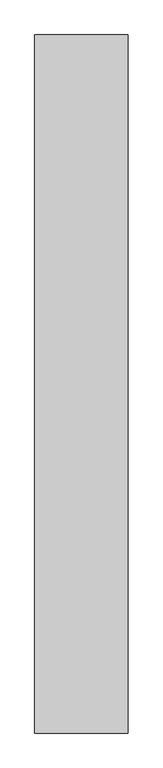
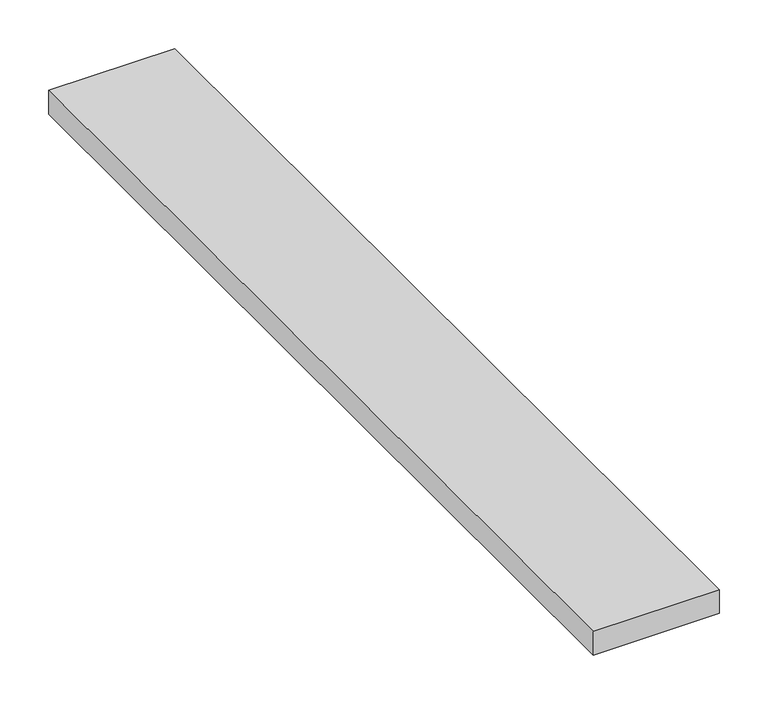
"""IFC4 building model written with IfcOpenShell, lengths in millimetres: proxy geometry, GM_Отделка : Подступенок."""

import ifcopenshell
import ifcopenshell.guid

model = None  # the IFC model being written
_history = None  # IfcOwnerHistory: only IFC2X3 demands one
_inside = {}  # id of a spatial element -> (the spatial element, [elements in it])
_under = {}  # id of a project, library or spatial element -> (it, [spatial elements below it])
_declared = {}  # id of a project -> (the project, [libraries it declares])
_typed = {}  # id of a type object -> (the type object, [elements of that type])
_made_of = {}  # id of a material, layer set ... -> (it, [elements and type objects made of it])


def new_model(schema):
    """Start an empty IFC model of exactly this schema.

    Asked for "IFC4X3", IfcOpenShell would pick the latest addendum, in which some entities
    have other attributes; the version numbers below select the first issue.
    IFC2X3 requires an IfcOwnerHistory on every rooted entity: one is made here for all.
    """
    global model, _history
    if schema == "IFC4X3":
        model = ifcopenshell.file(schema_version=(4, 3, 0, 0))
    else:
        model = ifcopenshell.file(schema=schema)
    _inside.clear()
    _under.clear()
    _declared.clear()
    _typed.clear()
    _made_of.clear()
    _history = None
    if model.schema == "IFC2X3":
        org = make("IfcOrganization", Name="unknown")
        user = make(
            "IfcPersonAndOrganization",
            ThePerson=make("IfcPerson", FamilyName="unknown"),
            TheOrganization=org,
        )
        app = make(
            "IfcApplication",
            ApplicationDeveloper=org,
            Version="unknown",
            ApplicationFullName="unknown",
            ApplicationIdentifier="unknown",
        )
        _history = make(
            "IfcOwnerHistory",
            OwningUser=user,
            OwningApplication=app,
            ChangeAction="ADDED",
            CreationDate=0,
        )
    return model


def make(cls, **values):
    """One entity of the class cls with the attributes given. An attribute that is None is left unset."""
    return model.create_entity(
        cls, **{name: value for name, value in values.items() if value is not None}
    )


def rooted(cls, **values):
    """An entity with a GlobalId (a new one), such as an element, a storey or a relation."""
    return make(cls, GlobalId=ifcopenshell.guid.new(), OwnerHistory=_history, **values)


def si_unit(unit_type, name, prefix=None):
    """IfcSIUnit, for example si_unit("LENGTHUNIT", "METRE", prefix="MILLI")."""
    return make("IfcSIUnit", UnitType=unit_type, Prefix=prefix, Name=name)


def assignment(units):
    """IfcUnitAssignment: the units of a project."""
    return None if units is None else make("IfcUnitAssignment", Units=units)


def point(xyz):
    """IfcCartesianPoint."""
    return None if xyz is None else make("IfcCartesianPoint", Coordinates=xyz)


def direction(xyz):
    """IfcDirection."""
    return None if xyz is None else make("IfcDirection", DirectionRatios=xyz)


def frame(location, z_axis=None, x_axis=None):
    """IfcAxis2Placement3D, a coordinate frame: its origin and axes. An axis left out is left unset."""
    return make(
        "IfcAxis2Placement3D",
        Location=point(location),
        Axis=direction(z_axis),
        RefDirection=direction(x_axis),
    )


def origin():
    """The frame at (0, 0, 0) with its axes left unset."""
    return frame((0.0, 0.0, 0.0))


def origin_with_axes():
    """The frame at (0, 0, 0) with the z axis (0, 0, 1) and the x axis (1, 0, 0) written out."""
    return frame((0.0, 0.0, 0.0), z_axis=(0.0, 0.0, 1.0), x_axis=(1.0, 0.0, 0.0))


def place(relative_to, where):
    """IfcLocalPlacement: puts the frame where relative to a parent placement (None: the world)."""
    return make(
        "IfcLocalPlacement", PlacementRelTo=relative_to, RelativePlacement=where
    )


def context(
    kind, dimensions, precision=None, world=None, true_north=None, identifier=None
):
    """IfcGeometricRepresentationContext, for example the 3D "Model" context."""
    return make(
        "IfcGeometricRepresentationContext",
        ContextIdentifier=identifier,
        ContextType=kind,
        CoordinateSpaceDimension=dimensions,
        Precision=precision,
        WorldCoordinateSystem=world,
        TrueNorth=true_north,
    )


def project(units=None, contexts=None):
    """IfcProject with its units and contexts."""
    return rooted(
        "IfcProject",
        Name="project",
        RepresentationContexts=contexts,
        UnitsInContext=assignment(units),
    )


def spatial(cls, under=None, at=None, **own):
    """A site, building, storey or space (cls), placed at a placement, below another one or the project."""
    s = rooted(cls, ObjectPlacement=at, **own)
    if under is not None:
        _under.setdefault(under.id(), (under, []))[1].append(s)
    return s


def polyline(points):
    """IfcPolyline through the points."""
    return make("IfcPolyline", Points=[point(p) for p in points])


def outline(outer, holes=None, kind="AREA"):
    """IfcArbitraryClosedProfileDef: a profile drawn as a closed curve; with holes, ...WithVoids."""
    if holes is None:
        return make("IfcArbitraryClosedProfileDef", ProfileType=kind, OuterCurve=outer)
    return make(
        "IfcArbitraryProfileDefWithVoids",
        ProfileType=kind,
        OuterCurve=outer,
        InnerCurves=holes,
    )


def extrude(swept, where, along, depth):
    """IfcExtrudedAreaSolid: the profile swept, set in the frame where, extruded along a direction by depth."""
    return make(
        "IfcExtrudedAreaSolid",
        SweptArea=swept,
        Position=where,
        ExtrudedDirection=direction(along),
        Depth=depth,
    )


def shape(context_of_items, identifier, shape_type, items):
    """IfcShapeRepresentation: the items that make up one representation, for example the "Body"."""
    return make(
        "IfcShapeRepresentation",
        ContextOfItems=context_of_items,
        RepresentationIdentifier=identifier,
        RepresentationType=shape_type,
        Items=items,
    )


def source(mapping_origin, context_of_items, identifier, shape_type, items):
    """IfcRepresentationMap: a shape defined once, which mapped items show again and again."""
    return make(
        "IfcRepresentationMap",
        MappingOrigin=mapping_origin,
        MappedRepresentation=shape(context_of_items, identifier, shape_type, items),
    )


def transform(
    local_origin,
    x_axis=None,
    y_axis=None,
    z_axis=None,
    scale=None,
    scale2=None,
    scale3=None,
    uniform=True,
):
    """IfcCartesianTransformationOperator3D, or its non-uniform kind. x_axis, y_axis, z_axis: its Axis1, 2, 3."""
    if uniform:
        return make(
            "IfcCartesianTransformationOperator3D",
            Axis1=direction(x_axis),
            Axis2=direction(y_axis),
            LocalOrigin=point(local_origin),
            Scale=scale,
            Axis3=direction(z_axis),
        )
    return make(
        "IfcCartesianTransformationOperator3DnonUniform",
        Axis1=direction(x_axis),
        Axis2=direction(y_axis),
        LocalOrigin=point(local_origin),
        Scale=scale,
        Axis3=direction(z_axis),
        Scale2=scale2,
        Scale3=scale3,
    )


def mapped(mapping_source, mapping_target):
    """IfcMappedItem: shows the shape of a source again, moved by a transform."""
    return make(
        "IfcMappedItem", MappingSource=mapping_source, MappingTarget=mapping_target
    )


def made_of(thing, what):
    """Note that an element or type object is made of a material, layer set ...; save() writes the relation."""
    if what is not None:
        _made_of.setdefault(what.id(), (what, []))[1].append(thing)
    return thing


def element(
    cls,
    number,
    at=None,
    inside=None,
    cuts=None,
    type_object=None,
    material=None,
    context=None,
    identifier="Body",
    shape_type=None,
    held_by="IfcProductDefinitionShape",
    body=None,
    shapes=None,
    **own,
):
    """One element of the class cls, such as IfcWall. Its Tag is "e" and its number.

    at: its placement. inside: the storey or other place that contains it. cuts: it is an
    opening in that element (IfcRelVoidsElement). A single representation is given by context,
    identifier, shape_type and body (its items); several are given by shapes. held_by: the class
    of the entity that holds the representations. save() writes the other relations.
    """
    e = rooted(cls, Tag="e%d" % number, ObjectPlacement=at, **own)
    if body is not None:
        shapes = [shape(context, identifier, shape_type, body)]
    if shapes is not None:
        e.Representation = make(held_by, Representations=shapes)
    if inside is not None:
        _inside.setdefault(inside.id(), (inside, []))[1].append(e)
    if cuts is not None:
        rooted(
            "IfcRelVoidsElement", RelatingBuildingElement=cuts, RelatedOpeningElement=e
        )
    if type_object is not None:
        _typed.setdefault(type_object.id(), (type_object, []))[1].append(e)
    return made_of(e, material)


def aggregate(whole, parts):
    """IfcRelAggregates: a whole, such as a stair, and the parts it consists of."""
    return rooted("IfcRelAggregates", RelatingObject=whole, RelatedObjects=parts)


def save(model, path):
    """Write the relations noted so far, then the file.

    IfcRelAggregates (storeys below a building ...), IfcRelContainedInSpatialStructure (elements
    in a storey), IfcRelDefinesByType, IfcRelAssociatesMaterial and IfcRelDeclares: one each for
    every whole, place, type object, material and project.
    """
    for whole, parts in _under.values():
        aggregate(whole, parts)
    for where, things in _inside.values():
        rooted(
            "IfcRelContainedInSpatialStructure",
            RelatedElements=things,
            RelatingStructure=where,
        )
    for kind, things in _typed.values():
        rooted("IfcRelDefinesByType", RelatedObjects=things, RelatingType=kind)
    for what, things in _made_of.values():
        rooted("IfcRelAssociatesMaterial", RelatedObjects=things, RelatingMaterial=what)
    for by, libraries in _declared.values():
        rooted("IfcRelDeclares", RelatingContext=by, RelatedDefinitions=libraries)
    model.write(path)


def generic_models_d5e938d4(model_context):
    return source(origin(), model_context, "Body", "SweptSolid", [
        extrude(outline(polyline([(-200.0, 972.5), (-200.0, -147.5), (-350.0, -147.5), (-350.0, 972.5), (-200.0, 972.5)])), origin_with_axes(), (0.0, 0.0, 1.0), 30.0),
    ])


if __name__ == "__main__":
    model = new_model("IFC4")
    model_context = context("Model", 3, world=origin())
    ifc_project = project(units=[si_unit("LENGTHUNIT", "METRE", prefix="MILLI")], contexts=[model_context])
    site = spatial("IfcSite", under=ifc_project)
    building = spatial("IfcBuilding", under=site)
    placement = place(None, origin())
    generic_models_shape = generic_models_d5e938d4(model_context)
    element("IfcBuildingElementProxy", 1, Name="GM_Отделка : Подступенок", ObjectType="GM_Отделка : Подступенок", at=placement, inside=building, context=model_context, shape_type="MappedRepresentation", body=[
        mapped(generic_models_shape, transform((0.0, 0.0, 0.0), x_axis=(1.0, 0.0, 0.0), y_axis=(0.0, 1.0, 0.0), z_axis=(0.0, 0.0, 1.0))),
    ])
    save(model, "model.ifc")
